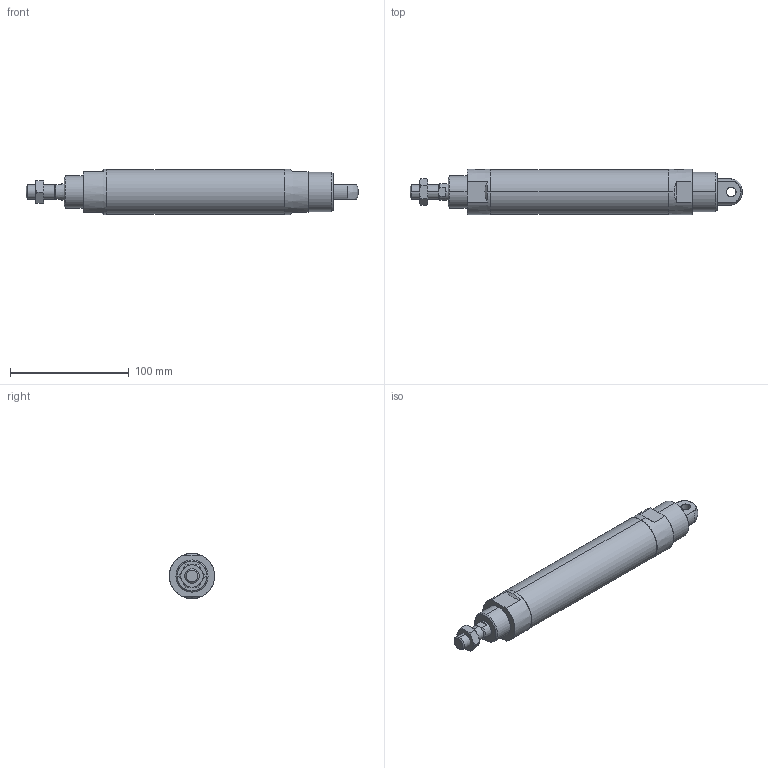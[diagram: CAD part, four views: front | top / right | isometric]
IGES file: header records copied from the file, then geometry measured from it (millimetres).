
Start section: SolidWorks IGES file using analytic representation for surfaces
Global section: file name: C:\Users\Toshiba\Desktop\J#2-32-100-C.IGS; native system: SolidWorks 2014; preprocessor: SolidWorks 2014; author: Toshiba; date: 160308.153630; units: millimetre
Bounding box: 279 x 38 x 38 mm (x, y, z)
Surface area: 32883.5 mm2 (no closed solid volume)
Topology: 0 solids, 0 shells, 81 faces, 1552 edges, 1548 vertices
Faces by surface type: bspline 42, revolution 39
